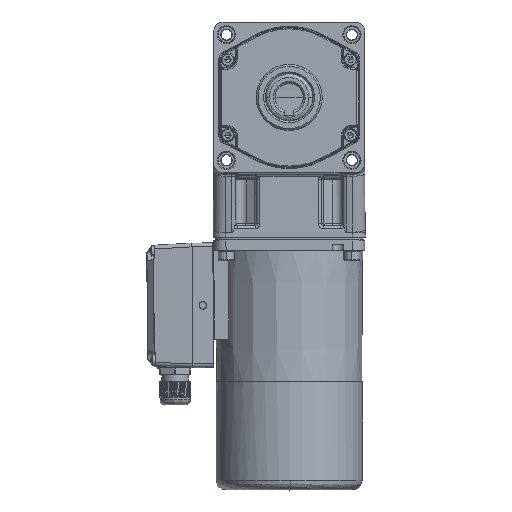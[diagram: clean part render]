
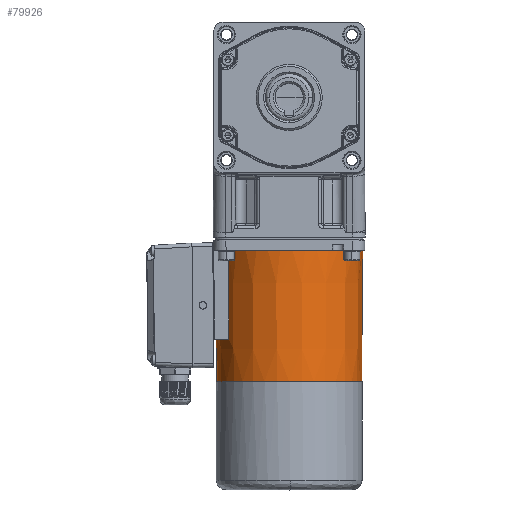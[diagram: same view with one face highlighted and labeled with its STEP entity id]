
A CAD part, top view. The second image highlights one B-rep face of the part: STEP entity #79926.
In plain terms, the highlighted conical face has half-angle 0.47 degrees and reference radius 38.947 mm.
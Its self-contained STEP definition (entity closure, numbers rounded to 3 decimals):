
#15 = DIRECTION ( 'NONE',  ( 0., 1., 0. ) ) ;
#3539 = ORIENTED_EDGE ( 'NONE', *, *, #81254, .T. ) ;
#4294 = CARTESIAN_POINT ( 'NONE',  ( -21.726, 31.379, 32.013 ) ) ;
#10984 = ORIENTED_EDGE ( 'NONE', *, *, #43546, .T. ) ;
#13329 = VERTEX_POINT ( 'NONE', #47872 ) ;
#13346 = CARTESIAN_POINT ( 'NONE',  ( -22., 0., 32.138 ) ) ;
#13831 = VECTOR ( 'NONE', #83061, 1000. ) ;
#16235 = EDGE_CURVE ( 'NONE', #77823, #30666, #28590, .T. ) ;
#16756 = AXIS2_PLACEMENT_3D ( 'NONE', #72086, #15, #64022 ) ;
#18161 = CIRCLE ( 'NONE', #16756, 38.561 ) ;
#19957 = DIRECTION ( 'NONE',  ( 0., 0., -1. ) ) ;
#20411 = CARTESIAN_POINT ( 'NONE',  ( 0., 0., 0. ) ) ;
#26641 = DIRECTION ( 'NONE',  ( 0., 0., -1. ) ) ;
#26946 = EDGE_CURVE ( 'NONE', #13329, #77823, #40384, .T. ) ;
#27652 = VERTEX_POINT ( 'NONE', #70148 ) ;
#28590 = CIRCLE ( 'NONE', #43701, 38.947 ) ;
#30666 = VERTEX_POINT ( 'NONE', #13346 ) ;
#32104 = EDGE_CURVE ( 'NONE', #27652, #92721, #18161, .T. ) ;
#33758 = DIRECTION ( 'NONE',  ( 0., -1., 0. ) ) ;
#39375 = CARTESIAN_POINT ( 'NONE',  ( 0., 69.5, 0. ) ) ;
#39385 = CARTESIAN_POINT ( 'NONE',  ( -22., 0., 32.138 ) ) ;
#40384 = LINE ( 'NONE', #90161, #41718 ) ;
#40891 = FACE_OUTER_BOUND ( 'NONE', #59955, .T. ) ;
#40960 = AXIS2_PLACEMENT_3D ( 'NONE', #69829, #33758, #26641 ) ;
#41718 = VECTOR ( 'NONE', #90622, 1000. ) ;
#43546 = EDGE_CURVE ( 'NONE', #30666, #27652, #64169, .T. ) ;
#43701 = AXIS2_PLACEMENT_3D ( 'NONE', #20411, #91512, #19957 ) ;
#43747 = ORIENTED_EDGE ( 'NONE', *, *, #26946, .T. ) ;
#47872 = CARTESIAN_POINT ( 'NONE',  ( 0., 69.5, -38.377 ) ) ;
#47905 = CARTESIAN_POINT ( 'NONE',  ( -21.863, 15.712, 32.076 ) ) ;
#48396 = CARTESIAN_POINT ( 'NONE',  ( -21.59, 47., 31.951 ) ) ;
#49006 = EDGE_CURVE ( 'NONE', #86315, #92721, #90176, .T. ) ;
#54145 = CARTESIAN_POINT ( 'NONE',  ( 0., 0., 38.947 ) ) ;
#54532 = CONICAL_SURFACE ( 'NONE', #40960, 38.947, 0.008 ) ;
#54964 = CARTESIAN_POINT ( 'NONE',  ( 0., 69.5, 38.377 ) ) ;
#59955 = EDGE_LOOP ( 'NONE', ( #81182, #3539, #43747, #62706, #10984, #76829 ) ) ;
#61636 = DIRECTION ( 'NONE',  ( 0., 0., -1. ) ) ;
#62706 = ORIENTED_EDGE ( 'NONE', *, *, #16235, .T. ) ;
#64022 = DIRECTION ( 'NONE',  ( 0., 0., -1. ) ) ;
#64169 =( BOUNDED_CURVE ( )  B_SPLINE_CURVE ( 3, ( #39385, #47905, #4294, #48396 ),
 .UNSPECIFIED., .F., .F. ) 
 B_SPLINE_CURVE_WITH_KNOTS ( ( 4, 4 ),
 ( 2.498, 2.502 ),
 .UNSPECIFIED. ) 
 CURVE ( )  GEOMETRIC_REPRESENTATION_ITEM ( )  RATIONAL_B_SPLINE_CURVE ( ( 1., 1., 1., 1. ) ) 
 REPRESENTATION_ITEM ( '' )  );
#67622 = CARTESIAN_POINT ( 'NONE',  ( 0., 47., 38.561 ) ) ;
#68307 = DIRECTION ( 'NONE',  ( 0., -1., 0. ) ) ;
#69829 = CARTESIAN_POINT ( 'NONE',  ( 0., 0., 0. ) ) ;
#70148 = CARTESIAN_POINT ( 'NONE',  ( -21.59, 47., 31.951 ) ) ;
#72086 = CARTESIAN_POINT ( 'NONE',  ( 0., 47., 0. ) ) ;
#76829 = ORIENTED_EDGE ( 'NONE', *, *, #32104, .T. ) ;
#77372 = AXIS2_PLACEMENT_3D ( 'NONE', #39375, #68307, #61636 ) ;
#77823 = VERTEX_POINT ( 'NONE', #89465 ) ;
#79926 = ADVANCED_FACE ( 'NONE', ( #40891 ), #54532, .T. ) ;
#81182 = ORIENTED_EDGE ( 'NONE', *, *, #49006, .F. ) ;
#81254 = EDGE_CURVE ( 'NONE', #86315, #13329, #84890, .T. ) ;
#83061 = DIRECTION ( 'NONE',  ( 0., -1., 0.008 ) ) ;
#84890 = CIRCLE ( 'NONE', #77372, 38.377 ) ;
#86315 = VERTEX_POINT ( 'NONE', #54964 ) ;
#89465 = CARTESIAN_POINT ( 'NONE',  ( 0., 0., -38.947 ) ) ;
#90161 = CARTESIAN_POINT ( 'NONE',  ( 0., 0., -38.947 ) ) ;
#90176 = LINE ( 'NONE', #54145, #13831 ) ;
#90622 = DIRECTION ( 'NONE',  ( 0., -1., -0.008 ) ) ;
#91512 = DIRECTION ( 'NONE',  ( 0., 1., 0. ) ) ;
#92721 = VERTEX_POINT ( 'NONE', #67622 ) ;
